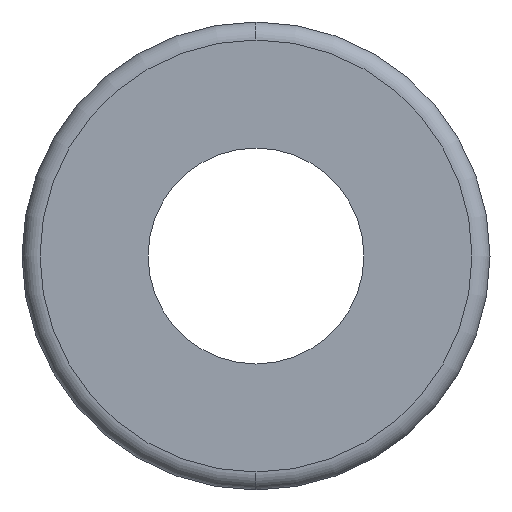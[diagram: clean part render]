
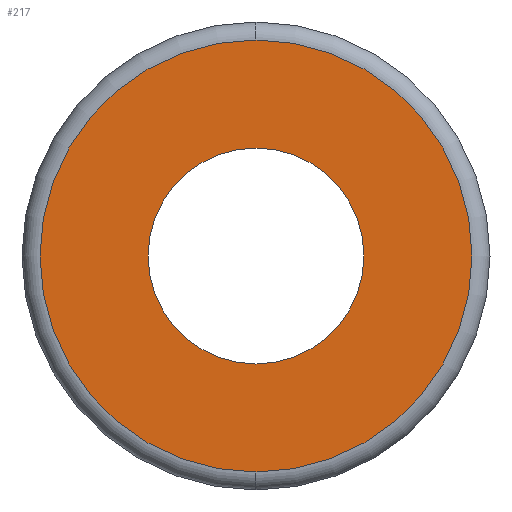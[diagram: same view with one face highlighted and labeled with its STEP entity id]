
A CAD part, left-side view. The second image highlights one B-rep face of the part: STEP entity #217.
In plain terms, the highlighted planar face has unit normal (-1, 0, 0).
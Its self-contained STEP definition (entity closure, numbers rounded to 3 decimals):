
#3 = EDGE_CURVE ( 'NONE', #133, #38, #384, .T. ) ;
#8 = FACE_OUTER_BOUND ( 'NONE', #61, .T. ) ;
#18 = VERTEX_POINT ( 'NONE', #355 ) ;
#38 = VERTEX_POINT ( 'NONE', #169 ) ;
#41 = VERTEX_POINT ( 'NONE', #105 ) ;
#56 = DIRECTION ( 'NONE',  ( -1., 0., 0. ) ) ;
#61 = EDGE_LOOP ( 'NONE', ( #205, #128 ) ) ;
#97 = ORIENTED_EDGE ( 'NONE', *, *, #252, .F. ) ;
#99 = CIRCLE ( 'NONE', #218, 6. ) ;
#105 = CARTESIAN_POINT ( 'NONE',  ( 0., 0., 6. ) ) ;
#128 = ORIENTED_EDGE ( 'NONE', *, *, #3, .T. ) ;
#133 = VERTEX_POINT ( 'NONE', #180 ) ;
#139 = CARTESIAN_POINT ( 'NONE',  ( 0., 6., 0. ) ) ;
#145 = PLANE ( 'NONE',  #170 ) ;
#154 = DIRECTION ( 'NONE',  ( 0., 0., -1. ) ) ;
#169 = CARTESIAN_POINT ( 'NONE',  ( 0., 0., -12. ) ) ;
#170 = AXIS2_PLACEMENT_3D ( 'NONE', #139, #287, #371 ) ;
#175 = AXIS2_PLACEMENT_3D ( 'NONE', #290, #56, #154 ) ;
#180 = CARTESIAN_POINT ( 'NONE',  ( 0., 0., 12. ) ) ;
#183 = DIRECTION ( 'NONE',  ( -1., 0., 0. ) ) ;
#186 = EDGE_LOOP ( 'NONE', ( #214, #97 ) ) ;
#191 = CIRCLE ( 'NONE', #323, 6. ) ;
#205 = ORIENTED_EDGE ( 'NONE', *, *, #334, .T. ) ;
#214 = ORIENTED_EDGE ( 'NONE', *, *, #317, .F. ) ;
#217 = ADVANCED_FACE ( 'NONE', ( #8, #249 ), #145, .F. ) ;
#218 = AXIS2_PLACEMENT_3D ( 'NONE', #416, #410, #407 ) ;
#249 = FACE_BOUND ( 'NONE', #186, .T. ) ;
#252 = EDGE_CURVE ( 'NONE', #18, #41, #99, .T. ) ;
#259 = DIRECTION ( 'NONE',  ( 0., 0., -1. ) ) ;
#287 = DIRECTION ( 'NONE',  ( 1., 0., 0. ) ) ;
#290 = CARTESIAN_POINT ( 'NONE',  ( 0., 0., 0. ) ) ;
#291 = DIRECTION ( 'NONE',  ( -1., 0., 0. ) ) ;
#317 = EDGE_CURVE ( 'NONE', #41, #18, #191, .T. ) ;
#323 = AXIS2_PLACEMENT_3D ( 'NONE', #331, #291, #335 ) ;
#331 = CARTESIAN_POINT ( 'NONE',  ( 0., 0., 0. ) ) ;
#334 = EDGE_CURVE ( 'NONE', #38, #133, #338, .T. ) ;
#335 = DIRECTION ( 'NONE',  ( 0., 0., 1. ) ) ;
#338 = CIRCLE ( 'NONE', #356, 12. ) ;
#355 = CARTESIAN_POINT ( 'NONE',  ( 0., 0., -6. ) ) ;
#356 = AXIS2_PLACEMENT_3D ( 'NONE', #403, #183, #259 ) ;
#371 = DIRECTION ( 'NONE',  ( 0., 0., -1. ) ) ;
#384 = CIRCLE ( 'NONE', #175, 12. ) ;
#403 = CARTESIAN_POINT ( 'NONE',  ( 0., 0., 0. ) ) ;
#407 = DIRECTION ( 'NONE',  ( 0., 0., 1. ) ) ;
#410 = DIRECTION ( 'NONE',  ( -1., 0., 0. ) ) ;
#416 = CARTESIAN_POINT ( 'NONE',  ( 0., 0., 0. ) ) ;
